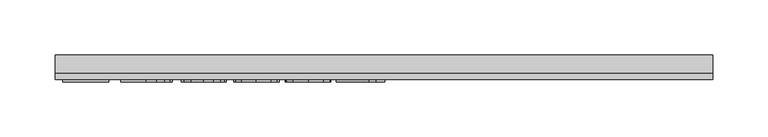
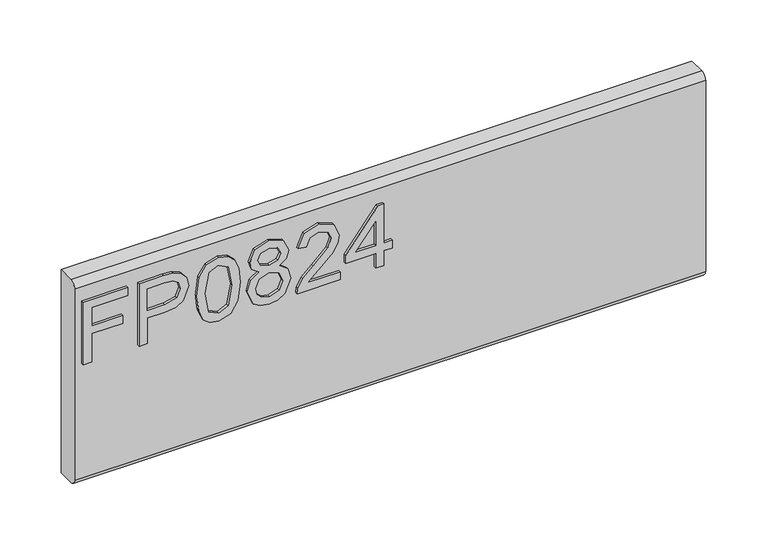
"""IFC4 building model written with IfcOpenShell, lengths in millimetres: furniture geometry."""

from ifc_helpers import new_model, si_unit, frame, origin, place, context, project, spatial, polyline, circle_curve, outline, extrude, source, transform, mapped, element, save
from ifc_brep_helpers import plane_surface, cylinder_surface, advanced_brep


def furniture_c5aecc28(model_context):
    return source(origin(), model_context, "Body", "SolidModel", [
        extrude(outline(polyline([(679.45, -291.6115385), (679.45, -283.7961538), (707.7807692, -283.7961538), (707.7807692, -254.4884615), (715.5961538, -254.4884615), (715.5961538, -283.7961538), (734.1576923, -283.7961538), (734.1576923, -249.6038462), (741.9730769, -249.6038462), (741.9730769, -291.6115385), (679.45, -291.6115385)])), frame((0.0, -15.0812439, 0.0), z_axis=(0.0, 1.0, 0.0), x_axis=(0.0, 0.0, 1.0)), (0.0, 0.0, 1.0), 2.38125),
        extrude(outline(polyline([(679.45, -238.8576923), (679.45, -231.0423077), (704.85, -231.0423077), (704.85, -215.1520433), (706.2314303, -204.0490835), (710.3757212, -196.995012), (723.8847356, -191.9653846), (732.4099159, -193.8276442), (738.4546274, -198.7504207), (741.3777644, -206.3444712), (741.9730769, -215.6862981), (741.9730769, -238.8576923), (679.45, -238.8576923)]), holes=[polyline([(712.6653846, -231.0423077), (734.1576923, -231.0423077), (734.1576923, -214.8772837), (733.6234375, -207.061899), (730.0820913, -201.7880409), (723.609976, -199.7807692), (715.5350962, -203.1847356), (712.6653846, -214.6941106), (712.6653846, -231.0423077)])]), frame((0.0, -15.0812439, 0.0), z_axis=(0.0, 1.0, 0.0), x_axis=(0.0, 0.0, 1.0)), (0.0, 0.0, 1.0), 2.38125),
        extrude(outline(polyline([(710.2078125, -184.15), (695.000631, -182.5930288), (684.4262019, -177.9221154), (679.9613582, -171.7552885), (678.4730769, -163.6346154), (681.8999399, -152.1939303), (692.295012, -145.3936298), (710.2078125, -143.1192308), (724.8998197, -144.5388221), (734.1500601, -148.2022837), (739.9581731, -154.5064904), (741.9730769, -163.6346154), (738.5691106, -175.0295072), (728.1969351, -181.8527043), (710.2078125, -184.15)]), holes=[polyline([(710.2230769, -176.3346154), (729.9752404, -172.5490385), (734.1576923, -163.7262019), (729.4104567, -154.4759615), (710.2230769, -150.9346154), (690.8296274, -154.5980769), (686.2884615, -163.6346154), (690.814363, -172.6711538), (710.2230769, -176.3346154)])]), frame((0.0, -15.0812439, 0.0), z_axis=(0.0, 1.0, 0.0), x_axis=(0.0, 0.0, 1.0)), (0.0, 0.0, 1.0), 2.38125),
        extrude(outline(polyline([(713.8865385, -124.8935096), (708.2081731, -133.3194712), (697.8588942, -136.2807692), (684.0216947, -130.6329327), (679.8602314, -124.0921274), (678.4730769, -115.7653846), (679.8545072, -107.4386418), (683.9987981, -100.8978365), (697.6451923, -95.25), (707.7578726, -98.0968149), (713.8865385, -106.4082933), (718.7177284, -99.4858774), (726.0828125, -97.2038462), (737.3479567, -102.3326923), (741.9730769, -115.8722356), (737.4548077, -129.2896635), (726.2965144, -134.3269231), (718.740625, -132.014363), (713.8865385, -124.8935096)]), holes=[polyline([(726.0675481, -126.5115385), (731.7764423, -123.6952524), (734.1576923, -115.7653846), (731.7230168, -107.8584135), (725.7164663, -105.0192308), (719.9159856, -107.7668269), (717.55, -115.6737981), (719.93125, -123.7410457), (726.0675481, -126.5115385)]), polyline([(698.1336538, -128.4653846), (706.4222356, -125.160637), (709.7346154, -115.9638221), (706.3764423, -106.4998798), (697.8894231, -103.0653846), (689.5626803, -106.3930288), (686.2884615, -115.7043269), (687.8454327, -122.5427885), (692.2492188, -127.1602764), (698.1336538, -128.4653846)])]), frame((0.0, -15.0812439, 0.0), z_axis=(0.0, 1.0, 0.0), x_axis=(0.0, 0.0, 1.0)), (0.0, 0.0, 1.0), 2.38125),
        extrude(outline(polyline([(687.2653846, -48.3576923), (687.2653846, -79.0544471), (691.2417668, -75.5283654), (698.7594952, -66.5376202), (709.467488, -55.3411659), (717.1302284, -50.7236779), (724.5411058, -49.3346154), (736.9663462, -54.4863582), (741.9730769, -68.4762019), (737.4700721, -82.4202524), (724.3884615, -88.4115385), (723.4115385, -80.5961538), (731.3032452, -77.3066707), (734.1576923, -68.6441106), (731.2345553, -60.3326322), (724.0679087, -57.15), (715.2145433, -60.5234375), (702.1939904, -74.0171875), (693.1345553, -83.8016827), (684.8383413, -88.5489183), (679.45, -89.3884615), (679.45, -48.3576923), (687.2653846, -48.3576923)])), frame((0.0, -15.0812439, 0.0), z_axis=(0.0, 1.0, 0.0), x_axis=(0.0, 0.0, 1.0)), (0.0, 0.0, 1.0), 2.38125),
        extrude(outline(polyline([(679.45, -15.1423077), (679.45, -7.3269231), (694.1038462, -7.3269231), (694.1038462, 0.4884615), (701.9192308, 0.4884615), (701.9192308, -7.3269231), (740.9961538, -7.3269231), (740.9961538, -13.1884615), (701.9192308, -43.4730769), (694.1038462, -43.4730769), (694.1038462, -15.1423077), (679.45, -15.1423077)]), holes=[polyline([(701.9192308, -15.1423077), (701.9192308, -33.8564904), (726.0675481, -15.1423077), (701.9192308, -15.1423077)])]), frame((0.0, -15.0812439, 0.0), z_axis=(0.0, 1.0, 0.0), x_axis=(0.0, 0.0, 1.0)), (0.0, 0.0, 1.0), 2.38125),
        advanced_brep(
        [(298.45, 9.5250061, 762.0), (298.45, -6.7309939, 762.0), (298.45, -12.6999939, 756.031), (298.45, -12.6999939, 564.769), (298.45, -6.7309939, 558.8), (298.45, 9.5250061, 558.8), (-298.45, 9.5250061, 762.0), (-298.45, 9.5250061, 558.8), (-298.45, -6.7309939, 558.8), (-298.45, -12.6999939, 564.769), (-298.45, -12.6999939, 756.0310121), (-298.45, -6.7309939, 762.0)],
        [
            (0, 1),
            (1, 2, circle_curve(frame((298.45, -6.7309939, 756.031), z_axis=(1.0, 0.0, 0.0), x_axis=(0.0, 1.0, 0.0)), 5.969)),
            (2, 3),
            (3, 4, circle_curve(frame((298.45, -6.7309939, 564.769), z_axis=(1.0, 0.0, 0.0), x_axis=(0.0, 1.0, 0.0)), 5.969)),
            (4, 5),
            (5, 0),
            (6, 7),
            (7, 8),
            (8, 9, circle_curve(frame((-298.45, -6.7309939, 564.769), z_axis=(-1.0, 0.0, 0.0), x_axis=(0.0, 1.0, 0.0)), 5.969)),
            (9, 10),
            (10, 11, circle_curve(frame((-298.45, -6.7309939, 756.031), z_axis=(-1.0, 0.0, 0.0), x_axis=(0.0, 1.0, 0.0)), 5.969)),
            (11, 6),
            (0, 6),
            (11, 1),
            (10, 2),
            (9, 3),
            (8, 4),
            (7, 5),
        ],
        [
            plane_surface(frame((298.45, -6.7309939, 762.0), z_axis=(1.0, 0.0, 0.0), x_axis=(0.0, -1.0, 0.0))),
            plane_surface(frame((-298.45, -6.7309939, 762.0), z_axis=(-1.0, 0.0, 0.0), x_axis=(0.0, 1.0, 0.0))),
            plane_surface(frame((298.45, 9.5250061, 762.0), z_axis=(0.0, 0.0, 1.0), x_axis=(-1.0, 0.0, 0.0))),
            cylinder_surface(frame((-298.45, -6.7309939, 756.031), z_axis=(1.0, 0.0, 0.0), x_axis=(0.0, 1.0, 0.0)), 5.969),
            plane_surface(frame((298.45, -12.6999939, 756.0310121), z_axis=(0.0, -1.0, 0.0), x_axis=(-1.0, 0.0, 0.0))),
            cylinder_surface(frame((-298.45, -6.7309939, 564.769), z_axis=(1.0, 0.0, 0.0), x_axis=(0.0, 1.0, 0.0)), 5.969),
            plane_surface(frame((298.45, -6.7309939, 558.8), z_axis=(0.0, 0.0, -1.0), x_axis=(-1.0, 0.0, 0.0))),
            plane_surface(frame((298.45, 9.5250061, 558.8), z_axis=(0.0, 1.0, 0.0), x_axis=(-1.0, 0.0, 0.0))),
        ],
        [
            (0, [[1, 2, 3, 4, 5, 6]]),
            (1, [[7, 8, 9, 10, 11, 12]]),
            (2, [[-1, 13, -12, 14]]),
            (3, [[-2, -14, -11, 15]]),
            (4, [[-3, -15, -10, 16]]),
            (5, [[-4, -16, -9, 17]]),
            (6, [[-5, -17, -8, 18]]),
            (7, [[-6, -18, -7, -13]]),
        ],
    ),
    ])


if __name__ == "__main__":
    model = new_model("IFC4")
    model_context = context("Model", 3, world=origin())
    ifc_project = project(units=[si_unit("LENGTHUNIT", "METRE", prefix="MILLI")], contexts=[model_context])
    site = spatial("IfcSite", under=ifc_project)
    building = spatial("IfcBuilding", under=site)
    placement = place(None, origin())
    furniture_shape = furniture_c5aecc28(model_context)
    element("IfcFurniture", 1, ObjectType="HermanMiller_Ethospace_E1420_FaceTile : Ptd 08\"H x 24\"W", at=placement, inside=building, context=model_context, shape_type="MappedRepresentation", body=[
        mapped(furniture_shape, transform((0.0, 0.0, 0.0), x_axis=(1.0, 0.0, 0.0), y_axis=(0.0, 1.0, 0.0), z_axis=(0.0, 0.0, 1.0))),
    ])
    save(model, "model.ifc")
